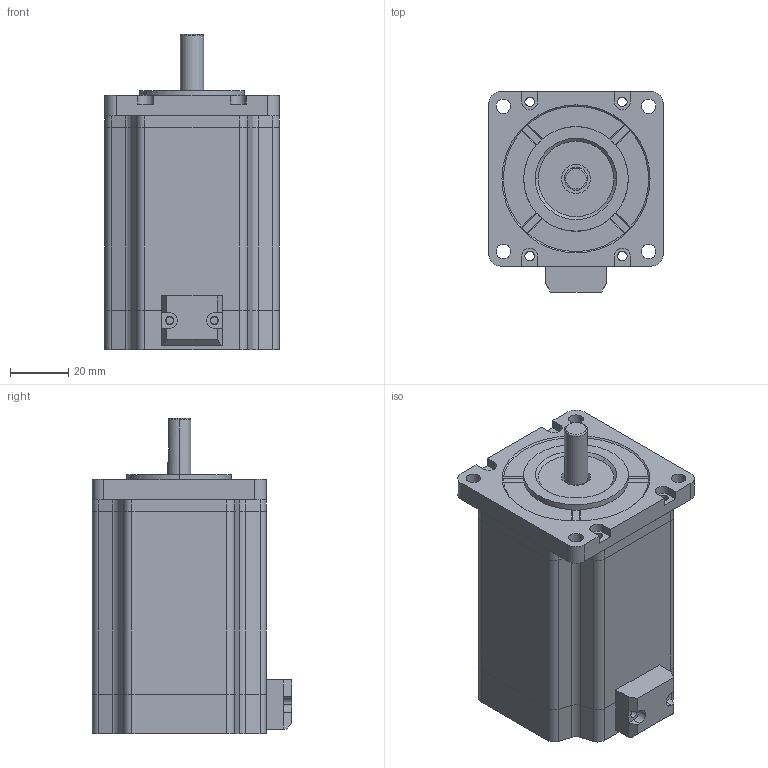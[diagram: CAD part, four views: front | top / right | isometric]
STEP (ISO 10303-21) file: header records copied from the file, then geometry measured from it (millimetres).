
FILE_DESCRIPTION (( 'STEP AP214' ), '1' );
FILE_NAME ('60CM21 V2.0.STEP', '2026-06-16T08:23:07', ( '' ), ( '' ), 'SwSTEP 2.0', 'SolidWorks 2023', '' );
FILE_SCHEMA (( 'AUTOMOTIVE_DESIGN' ));
Length unit declared in the file: millimetre
Products named in the file (1): 60CM21 V2.0
Bounding box: 60 x 68.86 x 108.5 mm (x, y, z)
Volume: 270516.5 mm3; surface area: 45875.3 mm2
Topology: 5 solids, 5 shells, 242 faces, 655 edges, 431 vertices
Faces by surface type: cylinder 122, plane 111, cone 6, torus 3
Entity records: 7855 total; most frequent: CARTESIAN_POINT 1405, DIRECTION 1396, ORIENTED_EDGE 1310, EDGE_CURVE 655, AXIS2_PLACEMENT_3D 516, VERTEX_POINT 431, VECTOR 364, LINE 364
